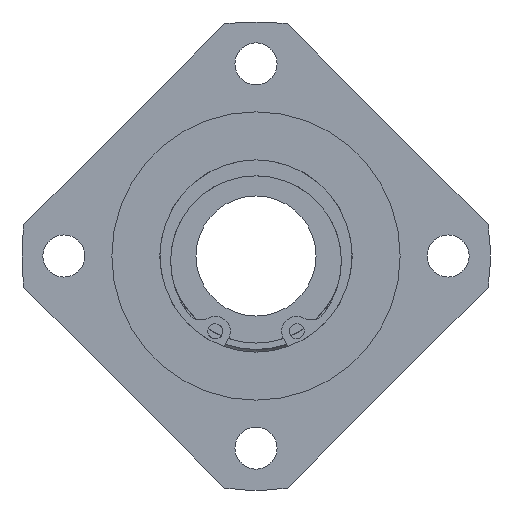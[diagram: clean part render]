
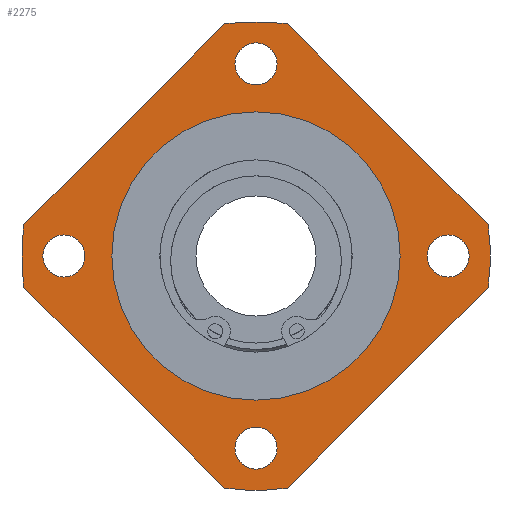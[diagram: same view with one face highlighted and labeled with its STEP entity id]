
A CAD part, left-side view. The second image highlights one B-rep face of the part: STEP entity #2275.
In plain terms, the highlighted planar face has unit normal (-1, 0, 0).
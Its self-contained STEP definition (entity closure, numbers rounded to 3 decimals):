
#1858=CARTESIAN_POINT('',(10.0,32.0,-3.5));
#1859=VERTEX_POINT('',#1858);
#1860=CARTESIAN_POINT('',(10.0,32.0,0.));
#1861=DIRECTION('',(1.0,0.0,0.0));
#1862=DIRECTION('',(0.0,0.0,-1.0));
#1863=AXIS2_PLACEMENT_3D('',#1860,#1861,#1862);
#1864=CIRCLE('',#1863,3.5);
#1865=EDGE_CURVE('',#1859,#1859,#1864,.T.);
#1886=CARTESIAN_POINT('',(10.0,-3.5,-32.0));
#1887=VERTEX_POINT('',#1886);
#1888=CARTESIAN_POINT('',(10.0,0.,-32.0));
#1889=DIRECTION('',(1.0,0.0,0.0));
#1890=DIRECTION('',(0.0,-1.0,0.0));
#1891=AXIS2_PLACEMENT_3D('',#1888,#1889,#1890);
#1892=CIRCLE('',#1891,3.5);
#1893=EDGE_CURVE('',#1887,#1887,#1892,.T.);
#1914=CARTESIAN_POINT('',(10.0,-32.0,3.5));
#1915=VERTEX_POINT('',#1914);
#1916=CARTESIAN_POINT('',(10.0,-32.0,0.));
#1917=DIRECTION('',(1.0,0.0,0.0));
#1918=DIRECTION('',(0.0,0.0,1.0));
#1919=AXIS2_PLACEMENT_3D('',#1916,#1917,#1918);
#1920=CIRCLE('',#1919,3.5);
#1921=EDGE_CURVE('',#1915,#1915,#1920,.T.);
#1942=CARTESIAN_POINT('',(10.0,3.5,32.0));
#1943=VERTEX_POINT('',#1942);
#1944=CARTESIAN_POINT('',(10.0,0.,32.0));
#1945=DIRECTION('',(1.0,0.0,0.0));
#1946=DIRECTION('',(0.0,1.0,0.0));
#1947=AXIS2_PLACEMENT_3D('',#1944,#1945,#1946);
#1948=CIRCLE('',#1947,3.5);
#1949=EDGE_CURVE('',#1943,#1943,#1948,.T.);
#1969=CARTESIAN_POINT('',(10.0,-5.187,38.654));
#1970=VERTEX_POINT('',#1969);
#1977=CARTESIAN_POINT('',(10.0,-38.654,5.187));
#1978=VERTEX_POINT('',#1977);
#1979=CARTESIAN_POINT('',(10.0,-38.654,5.187));
#1980=DIRECTION('',(0.0,0.707,0.707));
#1981=VECTOR('',#1980,47.329);
#1982=LINE('',#1979,#1981);
#1983=EDGE_CURVE('',#1978,#1970,#1982,.T.);
#2009=CARTESIAN_POINT('',(10.0,5.187,-38.654));
#2010=VERTEX_POINT('',#2009);
#2017=CARTESIAN_POINT('',(10.0,38.654,-5.187));
#2018=VERTEX_POINT('',#2017);
#2019=CARTESIAN_POINT('',(10.0,38.654,-5.187));
#2020=DIRECTION('',(0.0,-0.707,-0.707));
#2021=VECTOR('',#2020,47.329);
#2022=LINE('',#2019,#2021);
#2023=EDGE_CURVE('',#2018,#2010,#2022,.T.);
#2049=CARTESIAN_POINT('',(10.0,-38.654,-5.187));
#2050=VERTEX_POINT('',#2049);
#2057=CARTESIAN_POINT('',(10.0,-5.187,-38.654));
#2058=VERTEX_POINT('',#2057);
#2059=CARTESIAN_POINT('',(10.0,-5.187,-38.654));
#2060=DIRECTION('',(0.0,-0.707,0.707));
#2061=VECTOR('',#2060,47.329);
#2062=LINE('',#2059,#2061);
#2063=EDGE_CURVE('',#2058,#2050,#2062,.T.);
#2089=CARTESIAN_POINT('',(10.0,38.654,5.187));
#2090=VERTEX_POINT('',#2089);
#2097=CARTESIAN_POINT('',(10.0,5.187,38.654));
#2098=VERTEX_POINT('',#2097);
#2099=CARTESIAN_POINT('',(10.0,5.187,38.654));
#2100=DIRECTION('',(0.0,0.707,-0.707));
#2101=VECTOR('',#2100,47.329);
#2102=LINE('',#2099,#2101);
#2103=EDGE_CURVE('',#2098,#2090,#2102,.T.);
#2183=CARTESIAN_POINT('',(10.,0.0,0.0));
#2184=DIRECTION('',(-1.0,0.0,0.0));
#2185=DIRECTION('',(0.0,0.0,1.0));
#2186=AXIS2_PLACEMENT_3D('',#2183,#2184,#2185);
#2187=CIRCLE('',#2186,39.0);
#2188=EDGE_CURVE('',#2090,#2018,#2187,.T.);
#2203=CARTESIAN_POINT('',(10.,0.0,0.0));
#2204=DIRECTION('',(-1.0,0.0,0.0));
#2205=DIRECTION('',(0.0,0.0,1.0));
#2206=AXIS2_PLACEMENT_3D('',#2203,#2204,#2205);
#2207=CIRCLE('',#2206,39.0);
#2208=EDGE_CURVE('',#2010,#2058,#2207,.T.);
#2219=CARTESIAN_POINT('',(10.,0.0,0.0));
#2220=DIRECTION('',(-1.0,0.0,0.0));
#2221=DIRECTION('',(0.0,0.0,1.0));
#2222=AXIS2_PLACEMENT_3D('',#2219,#2220,#2221);
#2223=CIRCLE('',#2222,39.0);
#2224=EDGE_CURVE('',#2050,#1978,#2223,.T.);
#2231=CARTESIAN_POINT('',(10.0,0.0,31.5));
#2232=DIRECTION('',(-1.0,0.0,0.0));
#2233=DIRECTION('',(0.0,0.0,1.0));
#2234=AXIS2_PLACEMENT_3D('',#2231,#2232,#2233);
#2235=PLANE('',#2234);
#2236=ORIENTED_EDGE('',*,*,#1983,.T.);
#2237=CARTESIAN_POINT('',(10.,0.0,0.0));
#2238=DIRECTION('',(-1.0,0.0,0.0));
#2239=DIRECTION('',(0.0,0.0,1.0));
#2240=AXIS2_PLACEMENT_3D('',#2237,#2238,#2239);
#2241=CIRCLE('',#2240,39.0);
#2242=EDGE_CURVE('',#1970,#2098,#2241,.T.);
#2243=ORIENTED_EDGE('',*,*,#2242,.T.);
#2244=ORIENTED_EDGE('',*,*,#2103,.T.);
#2245=ORIENTED_EDGE('',*,*,#2188,.T.);
#2246=ORIENTED_EDGE('',*,*,#2023,.T.);
#2247=ORIENTED_EDGE('',*,*,#2208,.T.);
#2248=ORIENTED_EDGE('',*,*,#2063,.T.);
#2249=ORIENTED_EDGE('',*,*,#2224,.T.);
#2250=EDGE_LOOP('',(#2236,#2243,#2244,#2245,#2246,#2247,#2248,#2249));
#2251=FACE_OUTER_BOUND('',#2250,.T.);
#2252=ORIENTED_EDGE('',*,*,#1865,.T.);
#2253=EDGE_LOOP('',(#2252));
#2254=FACE_BOUND('',#2253,.T.);
#2255=ORIENTED_EDGE('',*,*,#1893,.T.);
#2256=EDGE_LOOP('',(#2255));
#2257=FACE_BOUND('',#2256,.T.);
#2258=ORIENTED_EDGE('',*,*,#1921,.T.);
#2259=EDGE_LOOP('',(#2258));
#2260=FACE_BOUND('',#2259,.T.);
#2261=ORIENTED_EDGE('',*,*,#1949,.T.);
#2262=EDGE_LOOP('',(#2261));
#2263=FACE_BOUND('',#2262,.T.);
#2264=CARTESIAN_POINT('',(10.,0.0,24.));
#2265=VERTEX_POINT('',#2264);
#2266=CARTESIAN_POINT('',(10.,0.0,0.0));
#2267=DIRECTION('',(-1.0,0.0,0.0));
#2268=DIRECTION('',(0.0,0.0,1.0));
#2269=AXIS2_PLACEMENT_3D('',#2266,#2267,#2268);
#2270=CIRCLE('',#2269,24.);
#2271=EDGE_CURVE('',#2265,#2265,#2270,.T.);
#2272=ORIENTED_EDGE('',*,*,#2271,.F.);
#2273=EDGE_LOOP('',(#2272));
#2274=FACE_BOUND('',#2273,.T.);
#2275=ADVANCED_FACE('',(#2251,#2254,#2257,#2260,#2263,#2274),#2235,.T.);
